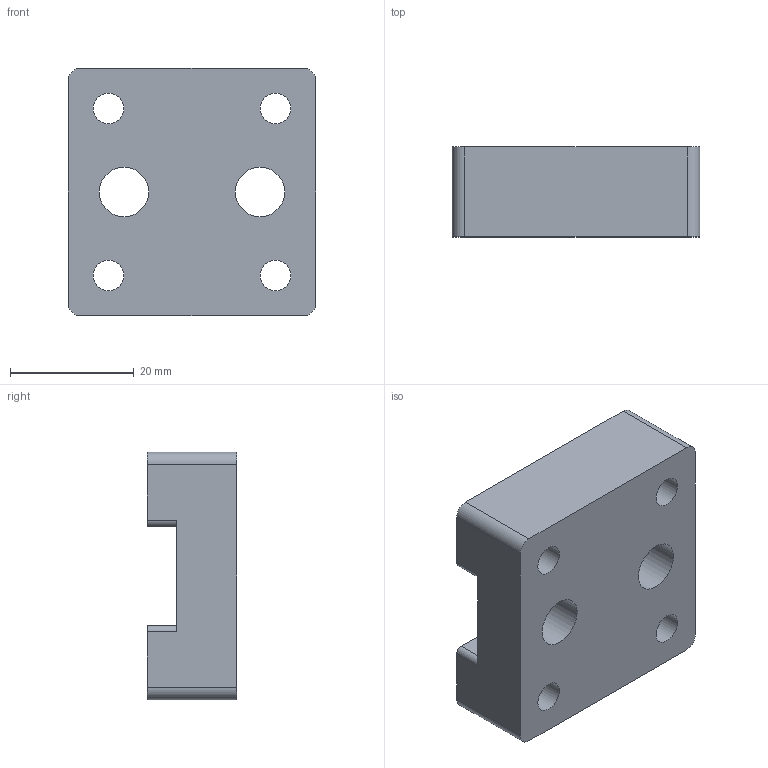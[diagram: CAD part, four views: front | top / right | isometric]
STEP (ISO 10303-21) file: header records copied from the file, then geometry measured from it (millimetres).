
FILE_DESCRIPTION(/* description */ (''),/* implementation_level */ '2;1');
FILE_NAME(/* name */ 'C:/Users/Nicholas Foo/Google Drive/Hari''s Mobility Solution/Design documents/P1/STEP/Mount_Motor_Base_2_STOCK.step',/* time_stamp */ '2017-10-02T12:29:40+08:00',/* author */ ('nickfoocs'),/* organization */ (''),/* preprocessor_version */ 'ST-DEVELOPER v16.13',/* originating_system */ 'Autodesk Translation Framework v6.5.0.72',/* authorisation */ '');
FILE_SCHEMA (('AUTOMOTIVE_DESIGN { 1 0 10303 214 3 1 1 }'));
Length unit declared in the file: millimetre
Products named in the file (1): Mount_Motor_Base_2 v2
Bounding box: 40 x 14.5 x 40 mm (x, y, z)
Volume: 18024.6 mm3; surface area: 6716.2 mm2
Topology: 1 solids, 1 shells, 24 faces, 72 edges, 50 vertices
Faces by surface type: cylinder 14, plane 10
Full cylindrical faces by diameter (mm): 4.917 x4, 8 x2
Entity records: 902 total; most frequent: DIRECTION 156, CARTESIAN_POINT 147, ORIENTED_EDGE 144, EDGE_CURVE 72, AXIS2_PLACEMENT_3D 59, VERTEX_POINT 50, LINE 38, VECTOR 38
